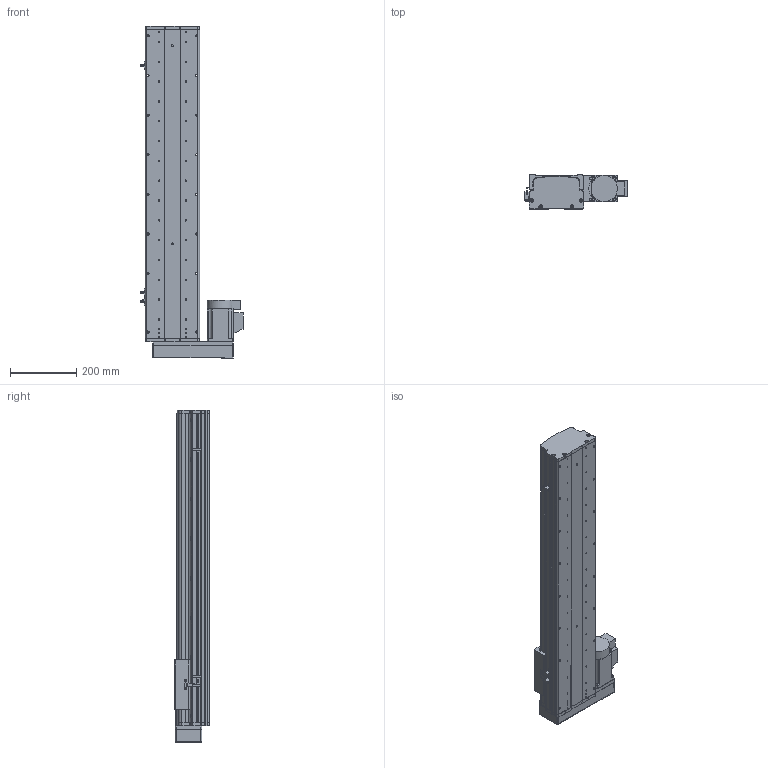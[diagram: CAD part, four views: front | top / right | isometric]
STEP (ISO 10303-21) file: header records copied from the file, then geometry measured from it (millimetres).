
FILE_DESCRIPTION (( 'STEP AP214' ), '1' );
FILE_NAME ('KSD165S-S700-ML-CM.STEP', '2017-10-17T08:56:04', ( '微软用户' ), ( '微软中国' ), 'SwSTEP 2.0', 'SolidWorks 2014', '' );
FILE_SCHEMA (( 'AUTOMOTIVE_DESIGN' ));
Length unit declared in the file: millimetre
Products named in the file (16): KSD165模组-防尘盖1-700行程-最新版; KSD165模组底板-700行程-最新; KSD165耀郪-佪裝-滅袉菜-3 -; KSD165耀郪-佪裝-滅袉菜-1; U倰嫖萇假蚾璃; KSD165耀郪-綴傷啣1; KSD165模组-丝杆滑动座-最新版; KSD165S-S700-ML-CM; 覜茼え68遵圉猾敕; U倰嫖萇EEㄜSX672; 拸秶雄ん750W侜督萇儂; KSD165模组-丝杆上下左右折前端板; HTPA26S5M250-A-H8丝杆用(内径14）; HTPA26S5M250-A-H8 750W萇儂蚚; 165宽模组马达安装板连板左右折丝杆; 165宽模组保护罩左右折
Assembly tree (19 placements, depth 2):
  KSD165S-S700-ML-CM
    KSD165模组-丝杆滑动座-最新版
    KSD165耀郪-綴傷啣1
    U倰嫖萇假蚾璃  x3
    KSD165耀郪-佪裝-滅袉菜-1
    KSD165耀郪-佪裝-滅袉菜-3 -
    KSD165模组底板-700行程-最新
    KSD165模组-防尘盖1-700行程-最新版
    165宽模组保护罩左右折
    165宽模组马达安装板连板左右折丝杆
    HTPA26S5M250-A-H8 750W萇儂蚚
    HTPA26S5M250-A-H8丝杆用(内径14）
    KSD165模组-丝杆上下左右折前端板
    拸秶雄ん750W侜督萇儂
    U倰嫖萇EEㄜSX672  x3
    覜茼え68遵圉猾敕
Bounding box: 311.2 x 104 x 1005.5 mm (x, y, z)
Volume: 6518434.3 mm3; surface area: 1508893 mm2
Topology: 20 solids, 20 shells, 1813 faces, 5144 edges, 3363 vertices
Faces by surface type: cylinder 1171, plane 541, cone 101
Entity records: 59475 total; most frequent: CARTESIAN_POINT 12403, DIRECTION 9603, ORIENTED_EDGE 8976, EDGE_CURVE 4488, AXIS2_PLACEMENT_3D 3763, VERTEX_POINT 2955, CIRCLE 2148, LINE 2077
